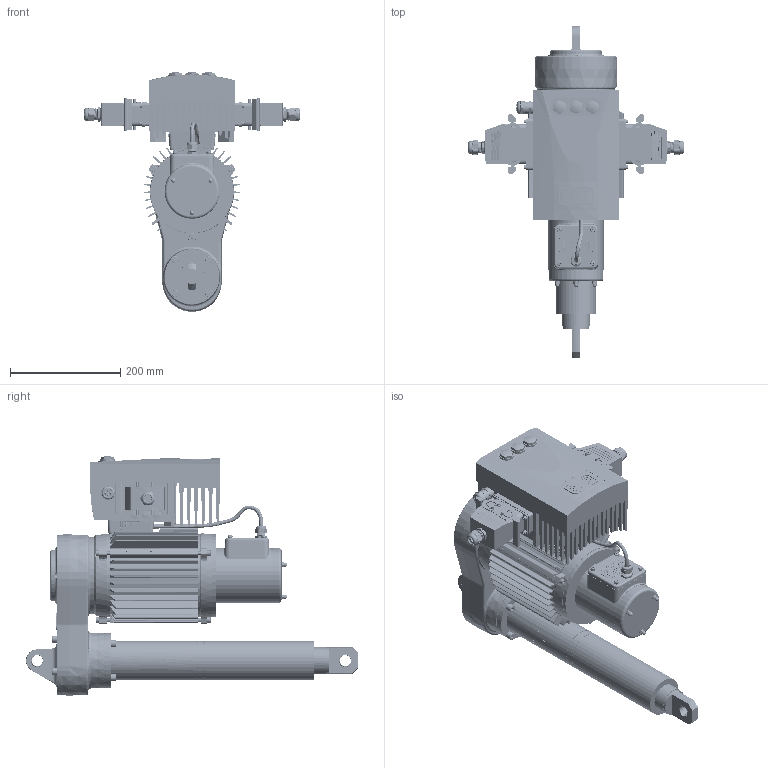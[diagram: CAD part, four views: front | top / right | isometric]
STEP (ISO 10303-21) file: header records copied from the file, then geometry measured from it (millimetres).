
FILE_DESCRIPTION( ( '153-599-4' ), '1' );
FILE_NAME( 'C:/daten/bearbeitung katalogbilder/RBs rendern/austausch pomplun/mit identnr/T6C6-RM-0200-160-213-6.stp', 'Unknown', ( 'Christoph Hahmann' ), ( 'RACO-ELEKTRO-MASCHINEN GmbH' ), 'PSStep 17.0.49', 'Solid Edge ST 7', ' ' );
FILE_SCHEMA( ( 'AUTOMOTIVE_DESIGN { 1 0 10303 214 1 1 1 1 }' ) );
Length unit declared in the file: millimetre
Products named in the file (10): Assem1; 12.01-06 6; 12. 2-146-133-82; 90L4-146-112-5  mit Adapter; BG1-155-449-2-kpl; Kabel zum Motor 90L4; Gehäuse A2- CAN-Compact; 02.14-06-0200 6; 01.15-06-0200 6; 01.01-150-131-3
Assembly tree (9 placements, depth 2):
  Assem1
    12.01-06 6
    12. 2-146-133-82
    90L4-146-112-5  mit Adapter
    BG1-155-449-2-kpl
    Kabel zum Motor 90L4
    Gehäuse A2- CAN-Compact
    02.14-06-0200 6
    01.15-06-0200 6
    01.01-150-131-3
Bounding box: 392.49 x 603.49 x 435.75 mm (x, y, z)
Volume: 11151074 mm3; surface area: 1419070.3 mm2
Topology: 9 solids, 53 shells, 8034 faces, 20519 edges, 13104 vertices
Faces by surface type: plane 4124, cylinder 2118, cone 694, bspline 587, torus 337, sphere 173, revolution 1
Full cylindrical faces by diameter (mm): 2.6 x1, 3 x31, 3.141 x8, 3.242 x16, 4 x20, 4.134 x9, 4.4 x8, 4.5 x12, 4.773 x6, 4.917 x6, 5 x28, 5.3 x3, 5.5 x9, 5.7 x7, 6 x20, 6.466 x4, 6.647 x9, 7 x15, 7.5 x3, 7.6 x8, 8 x11, 8.4 x4, 8.5 x3, 9.15 x7, 10 x9, 10.16 x2, 12 x4, 13 x11, 13.2 x2, 13.4 x3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
Entity records: 401829 total; most frequent: CARTESIAN_POINT 142414, ORIENTED_EDGE 38974, DIRECTION 38836, EDGE_CURVE 19487, AXIS2_PLACEMENT_3D 14185, VERTEX_POINT 12796, LINE 10465, VECTOR 10465
